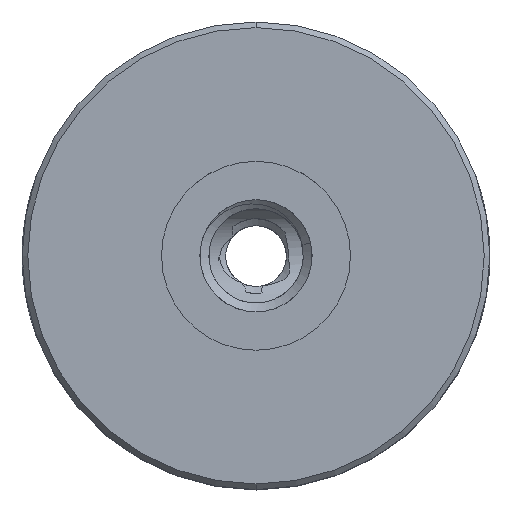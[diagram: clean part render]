
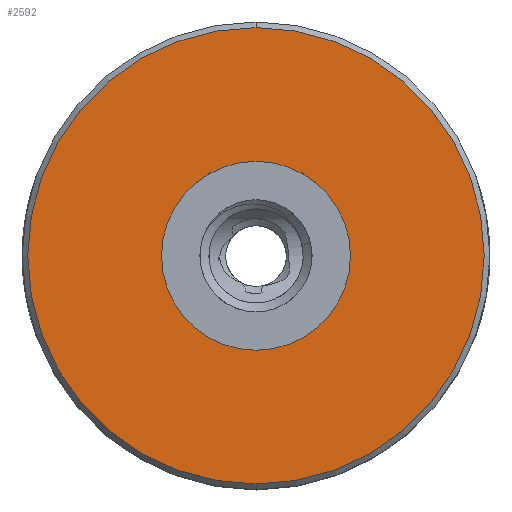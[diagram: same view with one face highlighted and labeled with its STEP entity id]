
A CAD part, top view. The second image highlights one B-rep face of the part: STEP entity #2592.
In plain terms, the highlighted planar face has unit normal (0, 0, 1).
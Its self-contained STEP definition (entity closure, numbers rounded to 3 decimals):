
#719=CARTESIAN_POINT('',(0.,0.,6.25));
#720=DIRECTION('',(0.,0.,1.));
#721=DIRECTION('',(0.,1.,0.));
#722=AXIS2_PLACEMENT_3D('',#719,#720,#721);
#724=CARTESIAN_POINT('',(0.,0.,6.25));
#725=DIRECTION('',(0.,0.,1.));
#726=DIRECTION('',(0.,-1.,0.));
#727=AXIS2_PLACEMENT_3D('',#724,#725,#726);
#729=CARTESIAN_POINT('',(0.,0.,6.25));
#730=DIRECTION('',(0.,0.,-1.));
#731=DIRECTION('',(0.,1.,0.));
#732=AXIS2_PLACEMENT_3D('',#729,#730,#731);
#742=CARTESIAN_POINT('',(0.,0.,6.25));
#743=DIRECTION('',(0.,0.,1.));
#744=DIRECTION('',(0.,1.,0.));
#745=AXIS2_PLACEMENT_3D('',#742,#743,#744);
#1474=CARTESIAN_POINT('',(0.,5.05,6.25));
#1476=VERTEX_POINT('',#1474);
#1482=CARTESIAN_POINT('',(0.,-5.05,6.25));
#1484=VERTEX_POINT('',#1482);
#1568=CARTESIAN_POINT('',(0.,12.2,6.25));
#1569=CARTESIAN_POINT('',(0.,-12.2,6.25));
#1570=VERTEX_POINT('',#1568);
#1571=VERTEX_POINT('',#1569);
#2576=CARTESIAN_POINT('',(0.,0.,6.25));
#2577=DIRECTION('',(0.,0.,-1.));
#2578=DIRECTION('',(0.,-1.,0.));
#2579=AXIS2_PLACEMENT_3D('',#2576,#2577,#2578);
#2580=PLANE('',#2579);
#2582=ORIENTED_EDGE('',*,*,#2581,.F.);
#2583=ORIENTED_EDGE('',*,*,#2566,.F.);
#2584=EDGE_LOOP('',(#2582,#2583));
#2585=FACE_OUTER_BOUND('',#2584,.F.);
#2587=ORIENTED_EDGE('',*,*,#2586,.F.);
#2589=ORIENTED_EDGE('',*,*,#2588,.T.);
#2590=EDGE_LOOP('',(#2587,#2589));
#2591=FACE_BOUND('',#2590,.F.);
#2592=ADVANCED_FACE('',(#2585,#2591),#2580,.F.);
#723=CIRCLE('',#722,12.2);
#728=CIRCLE('',#727,12.2);
#733=CIRCLE('',#732,5.05);
#746=CIRCLE('',#745,5.05);
#2566=EDGE_CURVE('',#1571,#1570,#728,.T.);
#2581=EDGE_CURVE('',#1570,#1571,#723,.T.);
#2586=EDGE_CURVE('',#1476,#1484,#733,.T.);
#2588=EDGE_CURVE('',#1476,#1484,#746,.T.);
